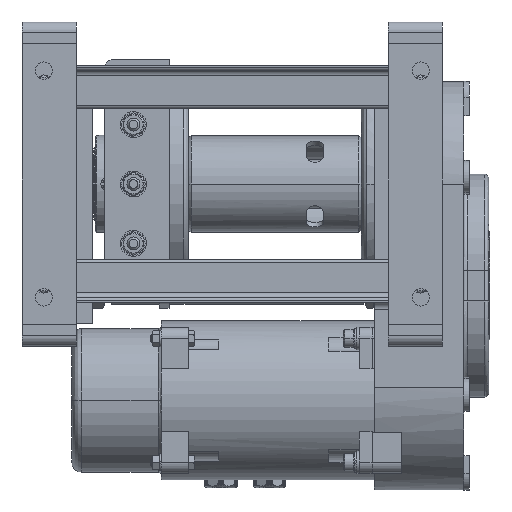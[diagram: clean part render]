
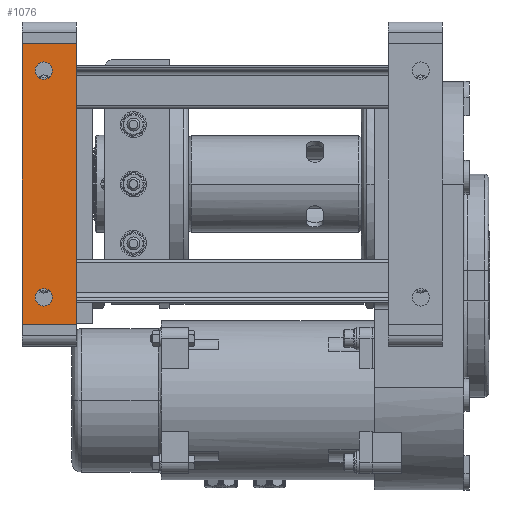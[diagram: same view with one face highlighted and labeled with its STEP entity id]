
A CAD part, front view. The second image highlights one B-rep face of the part: STEP entity #1076.
In plain terms, the highlighted planar face has unit normal (0, -1, 0).
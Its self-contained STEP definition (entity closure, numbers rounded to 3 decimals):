
#1076=ADVANCED_FACE('',(#11981,#11982,#11983),#11980,.F.);
#11980=PLANE('',#35321);
#11981=FACE_OUTER_BOUND('',#35322,.T.);
#11982=FACE_BOUND('',#35323,.T.);
#11983=FACE_BOUND('',#35324,.T.);
#35318=CARTESIAN_POINT('',(-453.179,-149.654,-1378.145));
#35319=DIRECTION('',(0.,1.,0.));
#35320=DIRECTION('',(0.,0.,-1.));
#35321=AXIS2_PLACEMENT_3D('',#35318,#35319,#35320);
#35322=EDGE_LOOP('',(#53456,#53457,#53458,#53459));
#35323=EDGE_LOOP('',(#53460,#53461));
#35324=EDGE_LOOP('',(#53462,#53463));
#53456=ORIENTED_EDGE('',*,*,#65444,.T.);
#53457=ORIENTED_EDGE('',*,*,#64781,.F.);
#53458=ORIENTED_EDGE('',*,*,#65443,.F.);
#53459=ORIENTED_EDGE('',*,*,#64814,.T.);
#53460=ORIENTED_EDGE('',*,*,#65446,.T.);
#53461=ORIENTED_EDGE('',*,*,#65447,.T.);
#53462=ORIENTED_EDGE('',*,*,#65448,.T.);
#53463=ORIENTED_EDGE('',*,*,#65449,.T.);
#64781=EDGE_CURVE('',#85073,#85080,#85081,.T.);
#64814=EDGE_CURVE('',#85308,#85301,#85309,.T.);
#65443=EDGE_CURVE('',#85308,#85073,#89515,.T.);
#65444=EDGE_CURVE('',#85301,#85080,#89521,.T.);
#65446=EDGE_CURVE('',#89533,#89534,#89535,.T.);
#65447=EDGE_CURVE('',#89534,#89533,#89541,.T.);
#65448=EDGE_CURVE('',#89547,#89548,#89549,.T.);
#65449=EDGE_CURVE('',#89548,#89547,#89555,.T.);
#85073=VERTEX_POINT('',#126072);
#85080=VERTEX_POINT('',#126076);
#85081=LINE('',#126077,#126078);
#85301=VERTEX_POINT('',#126209);
#85308=VERTEX_POINT('',#126213);
#85309=LINE('',#126214,#126215);
#89515=LINE('',#128912,#128913);
#89521=LINE('',#128915,#128916);
#89533=VERTEX_POINT('',#128922);
#89534=VERTEX_POINT('',#128923);
#89535=CIRCLE('',#128927,8.);
#89541=CIRCLE('',#128931,8.);
#89547=VERTEX_POINT('',#128932);
#89548=VERTEX_POINT('',#128933);
#89549=CIRCLE('',#128937,8.);
#89555=CIRCLE('',#128941,8.);
#126072=CARTESIAN_POINT('',(-458.179,-149.654,-1388.145));
#126076=CARTESIAN_POINT('',(-458.179,-149.654,-1648.145));
#126077=CARTESIAN_POINT('',(-458.179,-149.654,-1388.145));
#126078=VECTOR('',#126079,260.);
#126079=DIRECTION('',(0.,0.,-1.));
#126209=CARTESIAN_POINT('',(-508.179,-149.654,-1648.145));
#126213=CARTESIAN_POINT('',(-508.179,-149.654,-1388.145));
#126214=CARTESIAN_POINT('',(-508.179,-149.654,-1388.145));
#126215=VECTOR('',#126216,260.);
#126216=DIRECTION('',(0.,0.,-1.));
#128912=CARTESIAN_POINT('',(-508.179,-149.654,-1388.145));
#128913=VECTOR('',#128914,50.);
#128914=DIRECTION('',(1.,0.,0.));
#128915=CARTESIAN_POINT('',(-508.179,-149.654,-1648.145));
#128916=VECTOR('',#128917,50.);
#128917=DIRECTION('',(1.,0.,0.));
#128922=CARTESIAN_POINT('',(-488.179,-149.654,-1631.145));
#128923=CARTESIAN_POINT('',(-488.179,-149.654,-1615.145));
#128924=CARTESIAN_POINT('',(-488.179,-149.654,-1623.145));
#128925=DIRECTION('',(0.,1.,0.));
#128926=DIRECTION('',(0.,0.,-1.));
#128927=AXIS2_PLACEMENT_3D('',#128924,#128925,#128926);
#128928=CARTESIAN_POINT('',(-488.179,-149.654,-1623.145));
#128929=DIRECTION('',(0.,1.,0.));
#128930=DIRECTION('',(0.,0.,-1.));
#128931=AXIS2_PLACEMENT_3D('',#128928,#128929,#128930);
#128932=CARTESIAN_POINT('',(-488.179,-149.654,-1421.145));
#128933=CARTESIAN_POINT('',(-488.179,-149.654,-1405.145));
#128934=CARTESIAN_POINT('',(-488.179,-149.654,-1413.145));
#128935=DIRECTION('',(0.,1.,0.));
#128936=DIRECTION('',(0.,0.,-1.));
#128937=AXIS2_PLACEMENT_3D('',#128934,#128935,#128936);
#128938=CARTESIAN_POINT('',(-488.179,-149.654,-1413.145));
#128939=DIRECTION('',(0.,1.,0.));
#128940=DIRECTION('',(0.,0.,-1.));
#128941=AXIS2_PLACEMENT_3D('',#128938,#128939,#128940);
